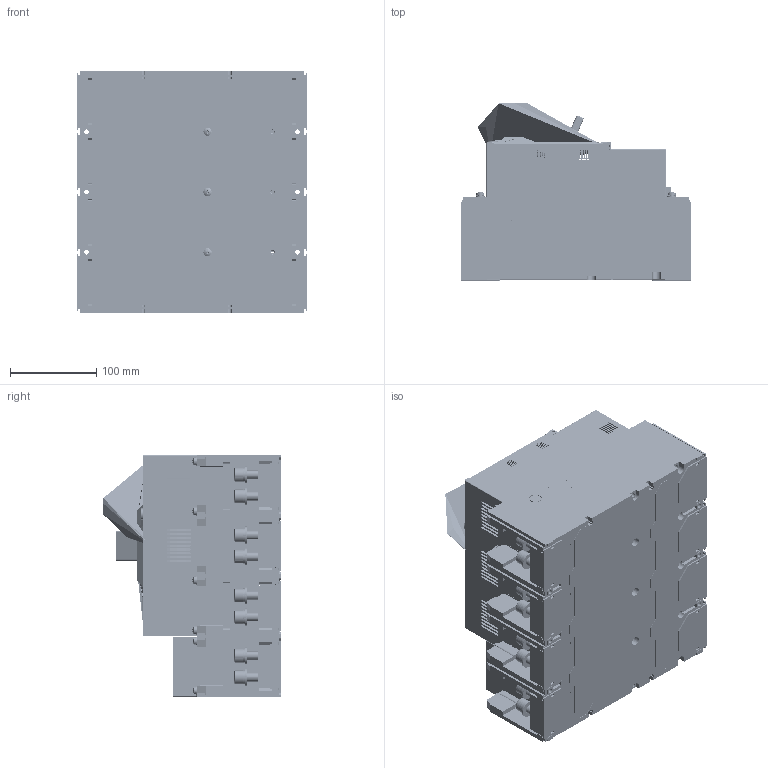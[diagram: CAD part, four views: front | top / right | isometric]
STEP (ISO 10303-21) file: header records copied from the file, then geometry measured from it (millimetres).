
FILE_DESCRIPTION (( 'STEP AP214' ), '1' );
FILE_NAME ('MNX1600_4P ﾈﾇﾌ.STEP', '2024-12-04T11:12:26', ( '' ), ( '' ), 'SwSTEP 2.0', 'SolidWorks 2022', '' );
FILE_SCHEMA (( 'AUTOMOTIVE_DESIGN' ));
Length unit declared in the file: millimetre
Products named in the file (1): MNX1600_4P ИЗМ
Bounding box: 268 x 205.39 x 280 mm (x, y, z)
Surface area: 1616943.2 mm2 (no closed solid volume)
Topology: 0 solids, 227 shells, 16981 faces, 50047 edges, 32932 vertices
Faces by surface type: plane 11924, cylinder 4117, cone 465, bspline 210, torus 181, sphere 84
Full cylindrical faces by diameter (mm): 5.625 x1
Entity records: 799685 total; most frequent: CARTESIAN_POINT 152935, ORIENTED_EDGE 99922, DIRECTION 90293, EDGE_CURVE 50133, VECTOR 36687, LINE 36687, VERTEX_POINT 33052, AXIS2_PLACEMENT_3D 26803
